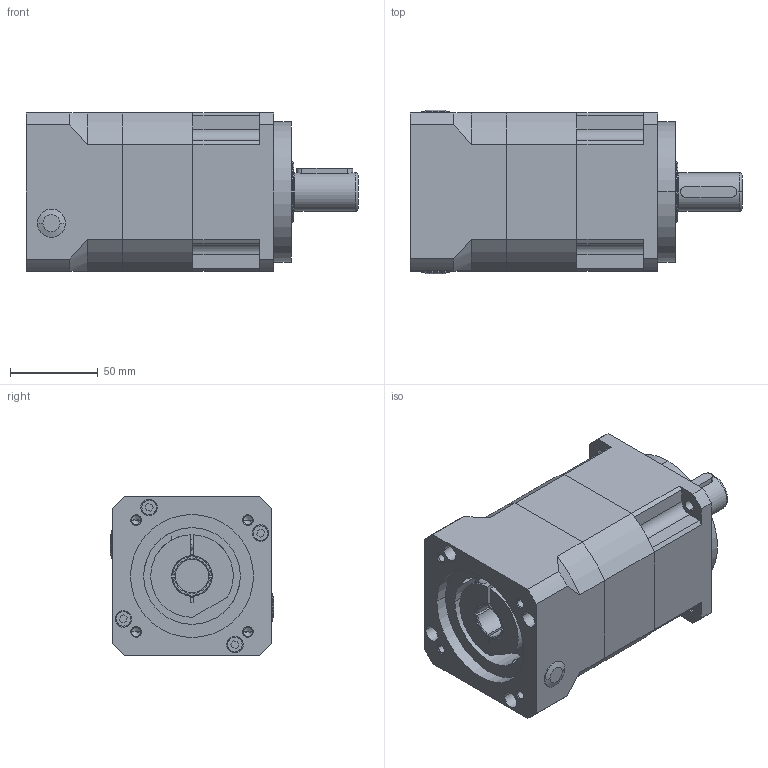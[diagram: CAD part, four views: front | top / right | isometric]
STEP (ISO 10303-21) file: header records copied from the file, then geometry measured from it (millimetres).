
FILE_DESCRIPTION (( 'STEP AP203' ), '1' );
FILE_NAME ('090-L2-19-70-90-M6.STEP', '2020-06-06T02:50:47', ( 'ylmfeng' ), ( 'ylmfeng.com' ), 'SwSTEP 2.0', 'SolidWorks 2014', '' );
FILE_SCHEMA (( 'CONFIG_CONTROL_DESIGN' ));
Length unit declared in the file: millimetre
Products named in the file (1): 090-L2-19-70-90-M6
Bounding box: 189 x 93 x 90 mm (x, y, z)
Volume: 1062213.9 mm3; surface area: 139111.2 mm2
Topology: 15 solids, 16 shells, 421 faces, 1016 edges, 640 vertices
Faces by surface type: plane 165, cylinder 136, cone 66, torus 26, bspline 24, sphere 4
Entity records: 13564 total; most frequent: CARTESIAN_POINT 3627, DIRECTION 2111, ORIENTED_EDGE 2012, EDGE_CURVE 1006, AXIS2_PLACEMENT_3D 818, VERTEX_POINT 640, VECTOR 475, LINE 475
